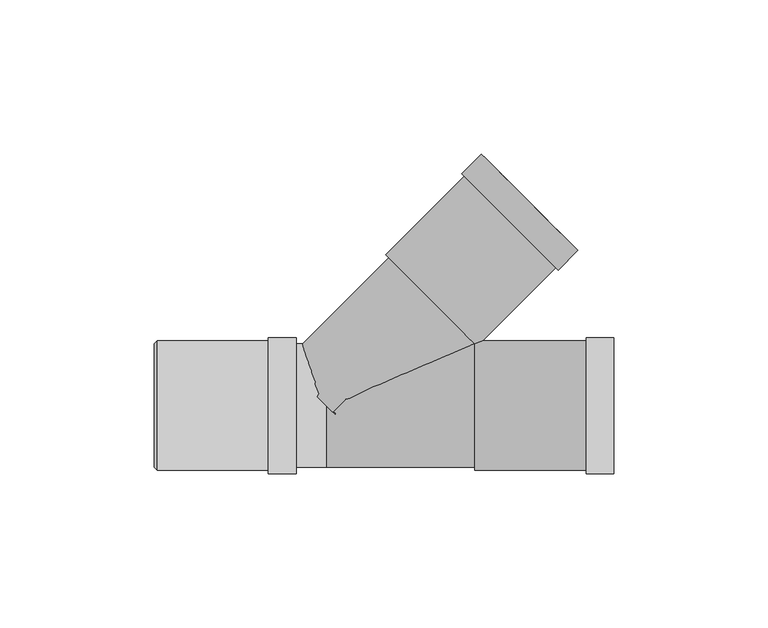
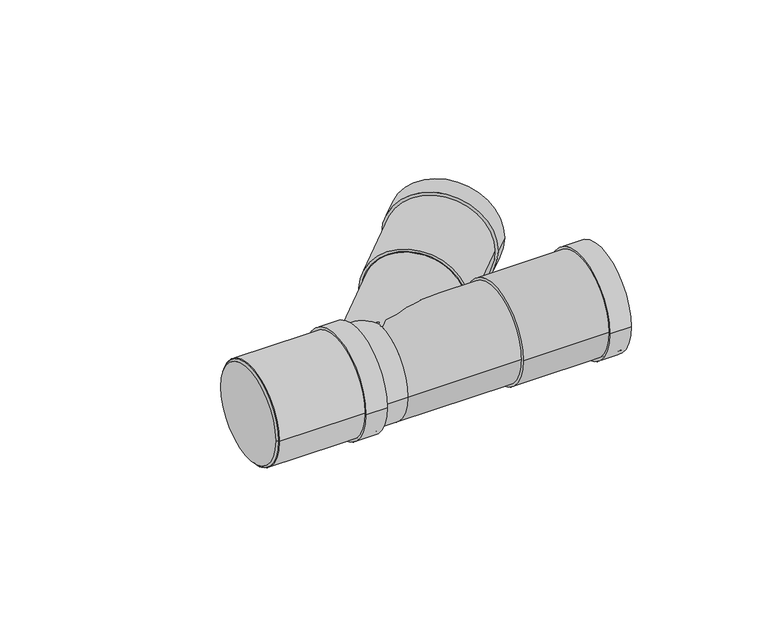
"""IFC4 building model written with IfcOpenShell, lengths in millimetres: pipe fitting geometry, Superdrain HTEA Branch : Superdrain HTEA Branch."""

from ifc_helpers import new_model, si_unit, point, frame, origin, origin_2d, place, context, project, spatial, polyline, circle_curve, trimmed, segment, composite_curve, outline, extrude, source, transform, mapped, element, save
from ifc_brep_helpers import plane_surface, cylinder_surface, revolved_surface, advanced_brep


def pipe_fitting_673835c0(model_context):
    return source(origin(), model_context, "Body", "SolidModel", [
        extrude(outline(composite_curve([segment(trimmed(circle_curve(origin_2d(), 21.0), [point((21.0, 0.0))], [point((-21.0, 0.0))], False, "CARTESIAN"), True, "CONTINUOUS"), segment(trimmed(circle_curve(origin_2d(), 21.0), [point((-21.0, 0.0))], [point((21.0, 0.0))], False, "CARTESIAN"), True, "CONTINUOUS")], self_intersect=False), holes=[composite_curve([segment(trimmed(circle_curve(origin_2d(), 20.0), [point((20.0, 0.0))], [point((-20.0, 0.0))], True, "CARTESIAN"), True, "CONTINUOUS"), segment(trimmed(circle_curve(origin_2d(), 20.0), [point((-20.0, 0.0))], [point((20.0, 0.0))], True, "CARTESIAN"), True, "CONTINUOUS")], self_intersect=False)]), frame((-54.8, 0.0, 0.0), z_axis=(1.0, 0.0, 0.0), x_axis=(0.0, 1.0, 0.0)), (0.0, 0.0, 1.0), 45.0),
        extrude(outline(composite_curve([segment(trimmed(circle_curve(origin_2d(), 22.05), [point((22.05, 0.0))], [point((-22.05, 0.0))], False, "CARTESIAN"), True, "CONTINUOUS"), segment(trimmed(circle_curve(origin_2d(), 22.05), [point((-22.05, 0.0))], [point((22.05, 0.0))], False, "CARTESIAN"), True, "CONTINUOUS")], self_intersect=False), holes=[composite_curve([segment(trimmed(circle_curve(origin_2d(), 20.0), [point((20.0, 0.0))], [point((-20.0, 0.0))], True, "CARTESIAN"), True, "CONTINUOUS"), segment(trimmed(circle_curve(origin_2d(), 20.0), [point((-20.0, 0.0))], [point((20.0, 0.0))], True, "CARTESIAN"), True, "CONTINUOUS")], self_intersect=False)]), frame((-18.8, 0.0, 0.0), z_axis=(1.0, 0.0, 0.0), x_axis=(0.0, 1.0, 0.0)), (0.0, 0.0, 1.0), 9.0),
        advanced_brep(
        [(-55.8, 20.0, 0.0), (-55.8, -20.0, 0.0), (-54.8, 21.0, 0.0), (-54.8, -21.0, 0.0)],
        [
            (0, 1, circle_curve(frame((-55.8, 0.0, 0.0), z_axis=(-1.0, 0.0, 0.0), x_axis=(0.0, 1.0, 0.0)), 20.0)),
            (1, 0, circle_curve(frame((-55.8, 0.0, 0.0), z_axis=(-1.0, 0.0, 0.0), x_axis=(0.0, -1.0, 0.0)), 20.0)),
            (2, 3, circle_curve(frame((-54.8, 0.0, 0.0), z_axis=(1.0, 0.0, 0.0), x_axis=(0.0, -1.0, 0.0)), 21.0)),
            (3, 2, circle_curve(frame((-54.8, 0.0, 0.0), z_axis=(1.0, 0.0, 0.0), x_axis=(0.0, 1.0, 0.0)), 21.0)),
            (3, 1),
            (0, 2),
        ],
        [
            plane_surface(frame((-55.8, 0.0, 0.0), z_axis=(-1.0, 0.0, 0.0), x_axis=(0.0, 0.0, -1.0))),
            plane_surface(frame((-54.8, 0.0, 0.0), z_axis=(1.0, 0.0, 0.0), x_axis=(0.0, 0.0, -1.0))),
            revolved_surface(polyline([(-55.8, 20.0, 0.0), (-54.8, 21.0, 0.0)]), (-75.8, 0.0, 0.0), (1.0, 0.0, 0.0)),
            revolved_surface(polyline([(-55.8, -20.0, 0.0), (-54.8, -21.0, 0.0)]), (-75.8, 0.0, 0.0), (1.0, 0.0, 0.0)),
        ],
        [
            (0, [[1, 2]]),
            (1, [[3, 4]]),
            (2, [[-4, 5, -1, 6]]),
            (3, [[-3, -6, -2, -5]]),
        ],
    ),
        advanced_brep(
        [(48.2, -21.0, 0.0), (48.2, 21.0, 0.0), (93.2, -21.0, 0.0), (93.2, 21.0, 0.0), (93.2, -20.0, 0.0), (93.2, 20.0, 0.0), (49.2, -20.0, 0.0), (49.2, 20.0, 0.0)],
        [
            (0, 1, circle_curve(frame((48.2, 0.0, 0.0), z_axis=(-1.0, 0.0, 0.0), x_axis=(0.0, 1.0, 0.0)), 21.0)),
            (1, 0, circle_curve(frame((48.2, 0.0, 0.0), z_axis=(-1.0, 0.0, 0.0), x_axis=(0.0, 1.0, 0.0)), 21.0)),
            (2, 3, circle_curve(frame((93.2, 0.0, 0.0), z_axis=(1.0, 0.0, 0.0), x_axis=(0.0, 1.0, 0.0)), 21.0)),
            (3, 2, circle_curve(frame((93.2, 0.0, 0.0), z_axis=(1.0, 0.0, 0.0), x_axis=(0.0, 1.0, 0.0)), 21.0)),
            (4, 5, circle_curve(frame((93.2, 0.0, 0.0), z_axis=(-1.0, 0.0, 0.0), x_axis=(0.0, 1.0, 0.0)), 20.0)),
            (5, 4, circle_curve(frame((93.2, 0.0, 0.0), z_axis=(-1.0, 0.0, 0.0), x_axis=(0.0, 1.0, 0.0)), 20.0)),
            (0, 2),
            (3, 1),
            (6, 7, circle_curve(frame((49.2, 0.0, 0.0), z_axis=(-1.0, 0.0, 0.0), x_axis=(0.0, 1.0, 0.0)), 20.0)),
            (7, 5),
            (4, 6),
            (7, 6, circle_curve(frame((49.2, 0.0, 0.0), z_axis=(-1.0, 0.0, 0.0), x_axis=(0.0, 1.0, 0.0)), 20.0)),
        ],
        [
            plane_surface(frame((48.2, 0.0, 0.0), z_axis=(-1.0, 0.0, 0.0), x_axis=(0.0, 0.0, 1.0))),
            plane_surface(frame((93.2, 0.0, 0.0), z_axis=(1.0, 0.0, 0.0), x_axis=(0.0, 0.0, 1.0))),
            cylinder_surface(frame((48.2, 0.0, 0.0), z_axis=(-1.0, 0.0, 0.0), x_axis=(0.0, 1.0, 0.0)), 21.0),
            revolved_surface(polyline([(49.2, 20.0, 0.0), (93.2, 20.0, 0.0)]), (49.2, 0.0, 0.0), (-1.0, 0.0, 0.0)),
            plane_surface(frame((49.2, 0.0, 0.0), z_axis=(1.0, 0.0, 0.0), x_axis=(0.0, 0.0, 1.0))),
        ],
        [
            (0, [[1, 2]]),
            (1, [[3, 4], [5, 6]]),
            (2, [[-1, 7, -4, 8]]),
            (2, [[-2, -8, -3, -7]]),
            (3, [[9, 10, -5, 11]]),
            (3, [[12, -11, -6, -10]]),
            (4, [[-12, -9]]),
        ],
    ),
        extrude(outline(composite_curve([segment(trimmed(circle_curve(origin_2d(), 22.05), [point((22.05, 0.0))], [point((-22.05, 0.0))], False, "CARTESIAN"), True, "CONTINUOUS"), segment(trimmed(circle_curve(origin_2d(), 22.05), [point((-22.05, 0.0))], [point((22.05, 0.0))], False, "CARTESIAN"), True, "CONTINUOUS")], self_intersect=False), holes=[composite_curve([segment(trimmed(circle_curve(origin_2d(), 20.0), [point((20.0, 0.0))], [point((-20.0, 0.0))], True, "CARTESIAN"), True, "CONTINUOUS"), segment(trimmed(circle_curve(origin_2d(), 20.0), [point((-20.0, 0.0))], [point((20.0, 0.0))], True, "CARTESIAN"), True, "CONTINUOUS")], self_intersect=False)]), frame((84.2, 0.0, 0.0), z_axis=(1.0, 0.0, 0.0), x_axis=(0.0, 1.0, 0.0)), (0.0, 0.0, 1.0), 9.0),
        extrude(outline(composite_curve([segment(trimmed(circle_curve(origin_2d(), 19.6), [point((0.0, 19.6))], [point((0.0, -19.6))], False, "CARTESIAN"), True, "CONTINUOUS"), segment(trimmed(circle_curve(origin_2d(), 19.6), [point((0.0, -19.6))], [point((0.0, 19.6))], False, "CARTESIAN"), True, "CONTINUOUS")], self_intersect=False)), frame((0.0, 0.0, 0.0), z_axis=(0.7071067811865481, 0.707106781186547, 0.0), x_axis=(0.0, 0.0, 1.0)), (0.0, 0.0, 1.0), 48.2),
        extrude(outline(composite_curve([segment(trimmed(circle_curve(origin_2d(), 20.0), [point((20.0, 0.0))], [point((-20.0, 0.0))], False, "CARTESIAN"), True, "CONTINUOUS"), segment(trimmed(circle_curve(origin_2d(), 20.0), [point((-20.0, 0.0))], [point((20.0, 0.0))], False, "CARTESIAN"), True, "CONTINUOUS")], self_intersect=False)), frame((-54.8, 0.0, 0.0), z_axis=(1.0, 0.0, 0.0), x_axis=(0.0, 1.0, 0.0)), (0.0, 0.0, 1.0), 54.8),
        extrude(outline(composite_curve([segment(trimmed(circle_curve(origin_2d(), 20.0), [point((-20.0, 0.0))], [point((20.0, 0.0))], False, "CARTESIAN"), True, "CONTINUOUS"), segment(trimmed(circle_curve(origin_2d(), 20.0), [point((20.0, 0.0))], [point((-20.0, 0.0))], False, "CARTESIAN"), True, "CONTINUOUS")], self_intersect=False)), frame((0.0, 0.0, 0.0), z_axis=(1.0, 0.0, 0.0), x_axis=(0.0, 1.0, 0.0)), (0.0, 0.0, 1.0), 48.2),
        extrude(outline(composite_curve([segment(trimmed(circle_curve(origin_2d(), 22.05), [point((0.0, 22.05))], [point((0.0, -22.05))], False, "CARTESIAN"), True, "CONTINUOUS"), segment(trimmed(circle_curve(origin_2d(), 22.05), [point((0.0, -22.05))], [point((0.0, 22.05))], False, "CARTESIAN"), True, "CONTINUOUS")], self_intersect=False), holes=[composite_curve([segment(trimmed(circle_curve(origin_2d(), 20.0), [point((0.0, 20.0))], [point((0.0, -20.0))], True, "CARTESIAN"), True, "CONTINUOUS"), segment(trimmed(circle_curve(origin_2d(), 20.0), [point((0.0, -20.0))], [point((0.0, 20.0))], True, "CARTESIAN"), True, "CONTINUOUS")], self_intersect=False)]), frame((59.538391, 59.538391, 0.0), z_axis=(0.7071067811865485, 0.7071067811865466, 0.0), x_axis=(0.0, 0.0, 1.0)), (0.0, 0.0, 1.0), 9.0),
        extrude(outline(composite_curve([segment(trimmed(circle_curve(origin_2d(), 21.0), [point((0.0, 21.0000001))], [point((0.0, -21.0000001))], False, "CARTESIAN"), True, "CONTINUOUS"), segment(trimmed(circle_curve(origin_2d(), 21.0), [point((0.0, -21.0000001))], [point((0.0, 21.0000001))], False, "CARTESIAN"), True, "CONTINUOUS")], self_intersect=False), holes=[composite_curve([segment(trimmed(circle_curve(origin_2d(), 20.0), [point((0.0, 20.0))], [point((0.0, -20.0))], True, "CARTESIAN"), True, "CONTINUOUS"), segment(trimmed(circle_curve(origin_2d(), 20.0), [point((0.0, -20.0))], [point((0.0, 20.0))], True, "CARTESIAN"), True, "CONTINUOUS")], self_intersect=False)]), frame((34.0825469, 34.0825469, 0.0), z_axis=(0.7071067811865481, 0.707106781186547, 0.0), x_axis=(0.0, 0.0, 1.0)), (0.0, 0.0, 1.0), 45.0),
    ])


if __name__ == "__main__":
    model = new_model("IFC4")
    model_context = context("Model", 3, world=origin())
    ifc_project = project(units=[si_unit("LENGTHUNIT", "METRE", prefix="MILLI")], contexts=[model_context])
    site = spatial("IfcSite", under=ifc_project)
    building = spatial("IfcBuilding", under=site)
    placement = place(None, origin())
    pipe_fitting_shape = pipe_fitting_673835c0(model_context)
    element("IfcPipeFitting", 1, ObjectType="Superdrain HTEA Branch : Superdrain HTEA Branch", at=placement, inside=building, context=model_context, shape_type="MappedRepresentation", body=[
        mapped(pipe_fitting_shape, transform((0.0, 0.0, 0.0), x_axis=(1.0, 0.0, 0.0), y_axis=(0.0, 1.0, 0.0), z_axis=(0.0, 0.0, 1.0))),
    ])
    save(model, "model.ifc")
